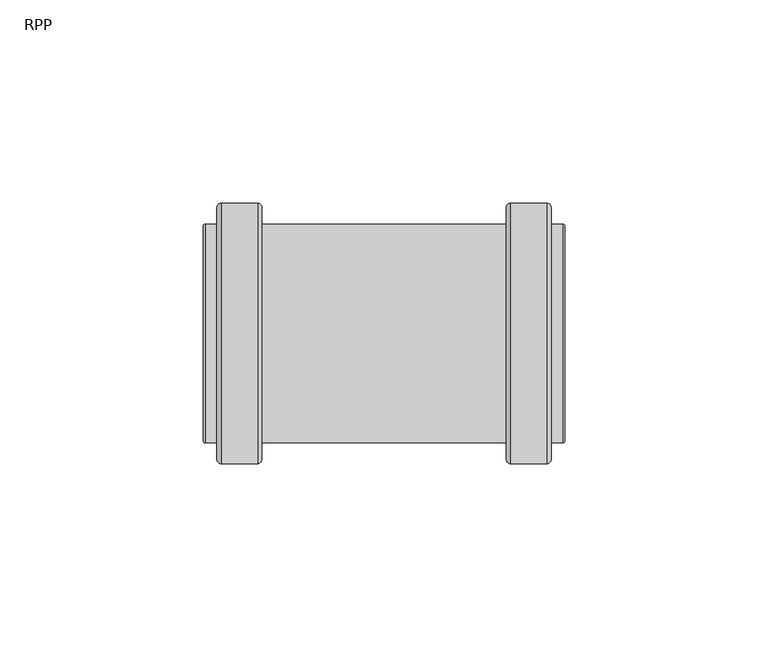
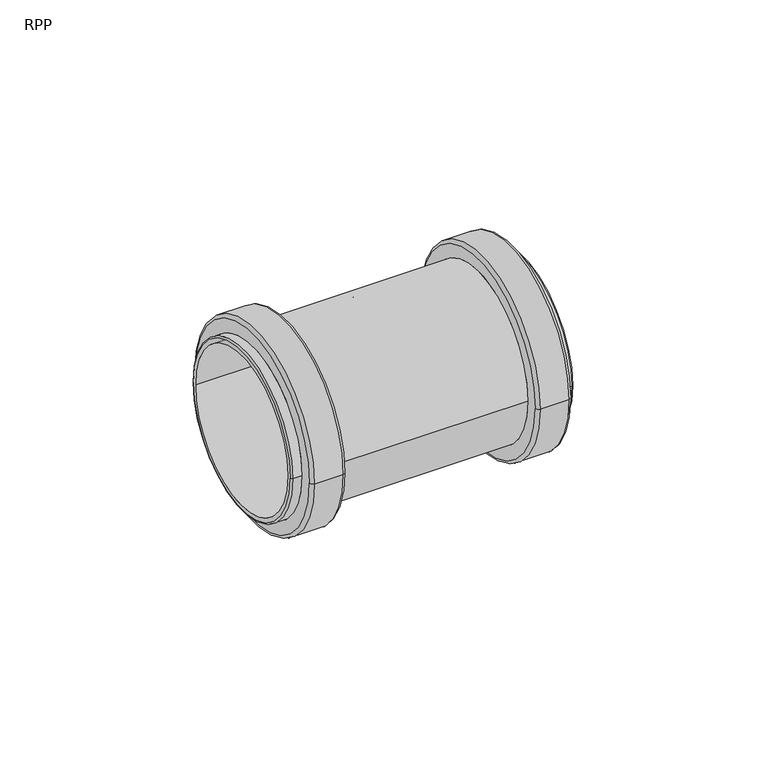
"""IFC4 building model written with IfcOpenShell, lengths in millimetres: pipe fitting geometry, RAUPIANO PLUS Double socket : RPP."""

from ifc_helpers import new_model, si_unit, point, frame, origin, place, context, project, spatial, polyline, circle_curve, ellipse_curve, trimmed, source, transform, mapped, element, save
from ifc_brep_helpers import plane_surface, cylinder_surface, revolved_surface, advanced_brep


def rpp_06d6b4b1(model_context):
    return source(origin(), model_context, "Body", "AdvancedBrep", [
        advanced_brep(
        [(-40.1, 32.05, 0.0), (-40.1, -32.05, 0.0), (-41.1, -31.05, 0.0), (-41.1, 31.05, 0.0), (-31.1, 32.05, 0.0), (-31.1, -32.05, 0.0), (-30.1, 31.05, 0.0), (-30.1, -31.05, 0.0), (30.1, 26.9, 0.0), (30.1, -26.9, 0.0), (-30.1, -26.9, 0.0), (-30.1, 26.9, 0.0), (31.1, 32.05, 0.0), (31.1, -32.05, 0.0), (30.1, -31.05, 0.0), (30.1, 31.05, 0.0), (40.1, 32.05, 0.0), (40.1, -32.05, 0.0), (41.1, 31.05, 0.0), (41.1, -31.05, 0.0), (44.0, 26.9, 0.0), (44.0, -26.9, 0.0), (41.1, -26.9, 0.0), (41.1, 26.9, 0.0), (44.5, 26.4, 0.0), (44.5, -26.4, 0.0), (1.0, 25.0, 0.0), (1.0, -25.0, 0.0), (44.5, -25.0, 0.0), (44.5, 25.0, 0.0), (-1.0, 22.69828, 0.0), (-1.0, -22.69828, 0.0), (1.0, -22.69828, 0.0), (1.0, 22.69828, 0.0), (-44.5, 25.0, 0.0), (-44.5, -25.0, 0.0), (-1.0, -25.0, 0.0), (-1.0, 25.0, 0.0), (-44.0, 26.9, 0.0), (-44.0, -26.9, 0.0), (-44.5, -26.4, 0.0), (-44.5, 26.4, 0.0), (-41.1, 26.9, 0.0), (-41.1, -26.9, 0.0)],
        [
            (0, 1, circle_curve(frame((-40.1, 0.0, 0.0), z_axis=(-1.0, 0.0, 0.0), x_axis=(0.0, -1.0, 0.0)), 32.05)),
            (1, 2, circle_curve(frame((-40.1, -31.05, 0.0), z_axis=(0.0, 0.0, -1.0), x_axis=(1.0, 0.0, 0.0)), 1.0)),
            (2, 3, circle_curve(frame((-41.1, 0.0, 0.0), z_axis=(1.0, 0.0, 0.0), x_axis=(0.0, -1.0, 0.0)), 31.05)),
            (3, 0, circle_curve(frame((-40.1, 31.05, 0.0), z_axis=(0.0, 0.0, -1.0), x_axis=(1.0, 0.0, 0.0)), 1.0)),
            (4, 5, circle_curve(frame((-31.1, 0.0, 0.0), z_axis=(-1.0, 0.0, 0.0), x_axis=(0.0, -1.0, 0.0)), 32.05)),
            (5, 1),
            (0, 4),
            (6, 7, circle_curve(frame((-30.1, 0.0, 0.0), z_axis=(-1.0, 0.0, 0.0), x_axis=(0.0, -1.0, 0.0)), 31.05)),
            (7, 5, circle_curve(frame((-31.1, -31.05, 0.0), z_axis=(0.0, 0.0, -1.0), x_axis=(1.0, 0.0, 0.0)), 1.0)),
            (4, 6, circle_curve(frame((-31.1, 31.05, 0.0), z_axis=(0.0, 0.0, -1.0), x_axis=(1.0, 0.0, 0.0)), 1.0)),
            (8, 9, circle_curve(frame((30.1, 0.0, 0.0), z_axis=(-1.0, 0.0, 0.0), x_axis=(0.0, -1.0, 0.0)), 26.9)),
            (9, 10),
            (10, 11, circle_curve(frame((-30.1, 0.0, 0.0), z_axis=(1.0, 0.0, 0.0), x_axis=(0.0, -1.0, 0.0)), 26.9)),
            (11, 8),
            (12, 13, circle_curve(frame((31.1, 0.0, 0.0), z_axis=(-1.0, 0.0, 0.0), x_axis=(0.0, -1.0, 0.0)), 32.05)),
            (13, 14, circle_curve(frame((31.1, -31.05, 0.0), z_axis=(0.0, 0.0, -1.0), x_axis=(1.0, 0.0, 0.0)), 1.0)),
            (14, 15, circle_curve(frame((30.1, 0.0, 0.0), z_axis=(1.0, 0.0, 0.0), x_axis=(0.0, -1.0, 0.0)), 31.05)),
            (15, 12, circle_curve(frame((31.1, 31.05, 0.0), z_axis=(0.0, 0.0, -1.0), x_axis=(1.0, 0.0, 0.0)), 1.0)),
            (16, 17, circle_curve(frame((40.1, 0.0, 0.0), z_axis=(-1.0, 0.0, 0.0), x_axis=(0.0, -1.0, 0.0)), 32.05)),
            (17, 13),
            (12, 16),
            (18, 19, circle_curve(frame((41.1, 0.0, 0.0), z_axis=(-1.0, 0.0, 0.0), x_axis=(0.0, -1.0, 0.0)), 31.05)),
            (19, 17, circle_curve(frame((40.1, -31.05, 0.0), z_axis=(0.0, 0.0, -1.0), x_axis=(1.0, 0.0, 0.0)), 1.0)),
            (16, 18, circle_curve(frame((40.1, 31.05, 0.0), z_axis=(0.0, 0.0, -1.0), x_axis=(1.0, 0.0, 0.0)), 1.0)),
            (20, 21, circle_curve(frame((44.0, 0.0, 0.0), z_axis=(-1.0, 0.0, 0.0), x_axis=(0.0, -1.0, 0.0)), 26.9)),
            (21, 22),
            (22, 23, circle_curve(frame((41.1, 0.0, 0.0), z_axis=(1.0, 0.0, 0.0), x_axis=(0.0, -1.0, 0.0)), 26.9)),
            (23, 20),
            (24, 25, circle_curve(frame((44.5, 0.0, 0.0), z_axis=(-1.0, 0.0, 0.0), x_axis=(0.0, -1.0, 0.0)), 26.4)),
            (25, 21, circle_curve(frame((44.0, -26.4, 0.0), z_axis=(0.0, 0.0, -1.0), x_axis=(1.0, 0.0, 0.0)), 0.5)),
            (20, 24, circle_curve(frame((44.0, 26.4, 0.0), z_axis=(0.0, 0.0, -1.0), x_axis=(1.0, 0.0, 0.0)), 0.5)),
            (26, 27, circle_curve(frame((1.0, 0.0, 0.0), z_axis=(-1.0, 0.0, 0.0), x_axis=(0.0, -1.0, 0.0)), 25.0)),
            (27, 28),
            (28, 29, circle_curve(frame((44.5, 0.0, 0.0), z_axis=(1.0, 0.0, 0.0), x_axis=(0.0, -1.0, 0.0)), 25.0)),
            (29, 26),
            (30, 31, circle_curve(frame((-1.0, 0.0, 0.0), z_axis=(-1.0, 0.0, 0.0), x_axis=(0.0, -1.0, 0.0)), 22.69828)),
            (31, 32),
            (32, 33, circle_curve(frame((1.0, 0.0, 0.0), z_axis=(1.0, 0.0, 0.0), x_axis=(0.0, -1.0, 0.0)), 22.69828)),
            (33, 30),
            (34, 35, circle_curve(frame((-44.5, 0.0, 0.0), z_axis=(-1.0, 0.0, 0.0), x_axis=(0.0, -1.0, 0.0)), 25.0)),
            (35, 36),
            (36, 37, circle_curve(frame((-1.0, 0.0, 0.0), z_axis=(1.0, 0.0, 0.0), x_axis=(0.0, -1.0, 0.0)), 25.0)),
            (37, 34),
            (38, 39, circle_curve(frame((-44.0, 0.0, 0.0), z_axis=(-1.0, 0.0, 0.0), x_axis=(0.0, -1.0, 0.0)), 26.9)),
            (39, 40, circle_curve(frame((-44.0, -26.4, 0.0), z_axis=(0.0, 0.0, -1.0), x_axis=(1.0, 0.0, 0.0)), 0.5)),
            (40, 41, circle_curve(frame((-44.5, 0.0, 0.0), z_axis=(1.0, 0.0, 0.0), x_axis=(0.0, -1.0, 0.0)), 26.4)),
            (41, 38, circle_curve(frame((-44.0, 26.4, 0.0), z_axis=(0.0, 0.0, -1.0), x_axis=(1.0, 0.0, 0.0)), 0.5)),
            (42, 43, circle_curve(frame((-41.1, 0.0, 0.0), z_axis=(-1.0, 0.0, 0.0), x_axis=(0.0, -1.0, 0.0)), 26.9)),
            (43, 39),
            (38, 42),
            (2, 3, circle_curve(frame((-41.1, 0.0, 0.0), z_axis=(-1.0, 0.0, 0.0), x_axis=(0.0, 1.0, 0.0)), 31.05)),
            (42, 43, circle_curve(frame((-41.1, 0.0, 0.0), z_axis=(1.0, 0.0, 0.0), x_axis=(0.0, 1.0, 0.0)), 26.9)),
            (1, 0, circle_curve(frame((-40.1, 0.0, 0.0), z_axis=(-1.0, 0.0, 0.0), x_axis=(0.0, 1.0, 0.0)), 32.05)),
            (5, 4, circle_curve(frame((-31.1, 0.0, 0.0), z_axis=(-1.0, 0.0, 0.0), x_axis=(0.0, 1.0, 0.0)), 32.05)),
            (7, 6, circle_curve(frame((-30.1, 0.0, 0.0), z_axis=(-1.0, 0.0, 0.0), x_axis=(0.0, 1.0, 0.0)), 31.05)),
            (10, 11, circle_curve(frame((-30.1, 0.0, 0.0), z_axis=(-1.0, 0.0, 0.0), x_axis=(0.0, 1.0, 0.0)), 26.9)),
            (9, 8, circle_curve(frame((30.1, 0.0, 0.0), z_axis=(-1.0, 0.0, 0.0), x_axis=(0.0, 1.0, 0.0)), 26.9)),
            (14, 15, circle_curve(frame((30.1, 0.0, 0.0), z_axis=(-1.0, 0.0, 0.0), x_axis=(0.0, 1.0, 0.0)), 31.05)),
            (13, 12, circle_curve(frame((31.1, 0.0, 0.0), z_axis=(-1.0, 0.0, 0.0), x_axis=(0.0, 1.0, 0.0)), 32.05)),
            (17, 16, circle_curve(frame((40.1, 0.0, 0.0), z_axis=(-1.0, 0.0, 0.0), x_axis=(0.0, 1.0, 0.0)), 32.05)),
            (19, 18, circle_curve(frame((41.1, 0.0, 0.0), z_axis=(-1.0, 0.0, 0.0), x_axis=(0.0, 1.0, 0.0)), 31.05)),
            (22, 23, circle_curve(frame((41.1, 0.0, 0.0), z_axis=(-1.0, 0.0, 0.0), x_axis=(0.0, 1.0, 0.0)), 26.9)),
            (21, 20, circle_curve(frame((44.0, 0.0, 0.0), z_axis=(-1.0, 0.0, 0.0), x_axis=(0.0, 1.0, 0.0)), 26.9)),
            (25, 24, circle_curve(frame((44.5, 0.0, 0.0), z_axis=(-1.0, 0.0, 0.0), x_axis=(0.0, 1.0, 0.0)), 26.4)),
            (28, 29, circle_curve(frame((44.5, 0.0, 0.0), z_axis=(-1.0, 0.0, 0.0), x_axis=(0.0, 1.0, 0.0)), 25.0)),
            (27, 26, circle_curve(frame((1.0, 0.0, 0.0), z_axis=(-1.0, 0.0, 0.0), x_axis=(0.0, 1.0, 0.0)), 25.0)),
            (32, 33, circle_curve(frame((1.0, 0.0, 0.0), z_axis=(-1.0, 0.0, 0.0), x_axis=(0.0, 1.0, 0.0)), 22.69828)),
            (31, 30, circle_curve(frame((-1.0, 0.0, 0.0), z_axis=(-1.0, 0.0, 0.0), x_axis=(0.0, 1.0, 0.0)), 22.69828)),
            (36, 37, circle_curve(frame((-1.0, 0.0, 0.0), z_axis=(-1.0, 0.0, 0.0), x_axis=(0.0, 1.0, 0.0)), 25.0)),
            (35, 34, circle_curve(frame((-44.5, 0.0, 0.0), z_axis=(-1.0, 0.0, 0.0), x_axis=(0.0, 1.0, 0.0)), 25.0)),
            (40, 41, circle_curve(frame((-44.5, 0.0, 0.0), z_axis=(-1.0, 0.0, 0.0), x_axis=(0.0, 1.0, 0.0)), 26.4)),
            (39, 38, circle_curve(frame((-44.0, 0.0, 0.0), z_axis=(-1.0, 0.0, 0.0), x_axis=(0.0, 1.0, 0.0)), 26.9)),
        ],
        [
            revolved_surface(trimmed(ellipse_curve(frame((-40.1, -31.05, 0.0), z_axis=(0.0, 0.0, 1.0), x_axis=(1.0, 0.0, 0.0)), 1.0, 1.0), [point((-41.1, -31.05, 0.0))], [point((-40.1, -32.05, 0.0))], True, "CARTESIAN"), (0.0, 0.0, 0.0), (1.0, 0.0, 0.0)),
            cylinder_surface(frame((0.0, 0.0, 0.0), z_axis=(1.0, 0.0, 0.0), x_axis=(0.0, -1.0, 0.0)), 32.05),
            revolved_surface(trimmed(ellipse_curve(frame((-31.1, -31.05, 0.0), z_axis=(0.0, 0.0, 1.0), x_axis=(1.0, 0.0, 0.0)), 1.0, 1.0), [point((-31.1, -32.05, 0.0))], [point((-30.1, -31.05, 0.0))], True, "CARTESIAN"), (0.0, 0.0, 0.0), (1.0, 0.0, 0.0)),
            cylinder_surface(frame((0.0, 0.0, 0.0), z_axis=(1.0, 0.0, 0.0), x_axis=(0.0, -1.0, 0.0)), 26.9),
            revolved_surface(trimmed(ellipse_curve(frame((31.1, -31.05, 0.0), z_axis=(0.0, 0.0, 1.0), x_axis=(1.0, 0.0, 0.0)), 1.0, 1.0), [point((30.1, -31.05, 0.0))], [point((31.1, -32.05, 0.0))], True, "CARTESIAN"), (0.0, 0.0, 0.0), (1.0, 0.0, 0.0)),
            revolved_surface(trimmed(ellipse_curve(frame((40.1, -31.05, 0.0), z_axis=(0.0, 0.0, 1.0), x_axis=(1.0, 0.0, 0.0)), 1.0, 1.0), [point((40.1, -32.05, 0.0))], [point((41.1, -31.05, 0.0))], True, "CARTESIAN"), (0.0, 0.0, 0.0), (1.0, 0.0, 0.0)),
            revolved_surface(trimmed(ellipse_curve(frame((44.0, -26.4, 0.0), z_axis=(0.0, 0.0, 1.0), x_axis=(1.0, 0.0, 0.0)), 0.5, 0.5), [point((44.0, -26.9, 0.0))], [point((44.5, -26.4, 0.0))], True, "CARTESIAN"), (0.0, 0.0, 0.0), (1.0, 0.0, 0.0)),
            revolved_surface(polyline([(44.5, -25.0, 0.0), (1.0, -25.0, 0.0)]), (0.0, 0.0, 0.0), (1.0, 0.0, 0.0)),
            revolved_surface(polyline([(1.0, -22.69828, 0.0), (-1.0, -22.69828, 0.0)]), (0.0, 0.0, 0.0), (1.0, 0.0, 0.0)),
            revolved_surface(polyline([(-1.0, -25.0, 0.0), (-44.5, -25.0, 0.0)]), (0.0, 0.0, 0.0), (1.0, 0.0, 0.0)),
            revolved_surface(trimmed(ellipse_curve(frame((-44.0, -26.4, 0.0), z_axis=(0.0, 0.0, 1.0), x_axis=(1.0, 0.0, 0.0)), 0.5, 0.5), [point((-44.5, -26.4, 0.0))], [point((-44.0, -26.9, 0.0))], True, "CARTESIAN"), (0.0, 0.0, 0.0), (1.0, 0.0, 0.0)),
            plane_surface(frame((-41.1, 0.0, 0.0), z_axis=(-1.0, 0.0, 0.0), x_axis=(0.0, 1.0, 0.0))),
            revolved_surface(trimmed(ellipse_curve(frame((-40.1, 31.05, 0.0), z_axis=(0.0, 0.0, -1.0), x_axis=(1.0, 0.0, 0.0)), 1.0, 1.0), [point((-41.1, 31.05, 0.0))], [point((-40.1, 32.05, 0.0))], True, "CARTESIAN"), (0.0, 0.0, 0.0), (1.0, 0.0, 0.0)),
            cylinder_surface(frame((0.0, 0.0, 0.0), z_axis=(1.0, 0.0, 0.0), x_axis=(0.0, 1.0, 0.0)), 32.05),
            revolved_surface(trimmed(ellipse_curve(frame((-31.1, 31.05, 0.0), z_axis=(0.0, 0.0, -1.0), x_axis=(1.0, 0.0, 0.0)), 1.0, 1.0), [point((-31.1, 32.05, 0.0))], [point((-30.1, 31.05, 0.0))], True, "CARTESIAN"), (0.0, 0.0, 0.0), (1.0, 0.0, 0.0)),
            plane_surface(frame((-30.1, 0.0, 0.0), z_axis=(1.0, 0.0, 0.0), x_axis=(0.0, 1.0, 0.0))),
            cylinder_surface(frame((0.0, 0.0, 0.0), z_axis=(1.0, 0.0, 0.0), x_axis=(0.0, 1.0, 0.0)), 26.9),
            plane_surface(frame((30.1, 0.0, 0.0), z_axis=(-1.0, 0.0, 0.0), x_axis=(0.0, 1.0, 0.0))),
            revolved_surface(trimmed(ellipse_curve(frame((31.1, 31.05, 0.0), z_axis=(0.0, 0.0, -1.0), x_axis=(1.0, 0.0, 0.0)), 1.0, 1.0), [point((30.1, 31.05, 0.0))], [point((31.1, 32.05, 0.0))], True, "CARTESIAN"), (0.0, 0.0, 0.0), (1.0, 0.0, 0.0)),
            revolved_surface(trimmed(ellipse_curve(frame((40.1, 31.05, 0.0), z_axis=(0.0, 0.0, -1.0), x_axis=(1.0, 0.0, 0.0)), 1.0, 1.0), [point((40.1, 32.05, 0.0))], [point((41.1, 31.05, 0.0))], True, "CARTESIAN"), (0.0, 0.0, 0.0), (1.0, 0.0, 0.0)),
            plane_surface(frame((41.1, 0.0, 0.0), z_axis=(1.0, 0.0, 0.0), x_axis=(0.0, 1.0, 0.0))),
            revolved_surface(trimmed(ellipse_curve(frame((44.0, 26.4, 0.0), z_axis=(0.0, 0.0, -1.0), x_axis=(1.0, 0.0, 0.0)), 0.5, 0.5), [point((44.0, 26.9, 0.0))], [point((44.5, 26.4, 0.0))], True, "CARTESIAN"), (0.0, 0.0, 0.0), (1.0, 0.0, 0.0)),
            plane_surface(frame((44.5, 0.0, 0.0), z_axis=(1.0, 0.0, 0.0), x_axis=(0.0, 1.0, 0.0))),
            revolved_surface(polyline([(44.5, 25.0, 0.0), (1.0, 25.0, 0.0)]), (0.0, 0.0, 0.0), (1.0, 0.0, 0.0)),
            plane_surface(frame((1.0, 0.0, 0.0), z_axis=(1.0, 0.0, 0.0), x_axis=(0.0, 1.0, 0.0))),
            revolved_surface(polyline([(1.0, 22.69828, 0.0), (-1.0, 22.69828, 0.0)]), (0.0, 0.0, 0.0), (1.0, 0.0, 0.0)),
            plane_surface(frame((-1.0, 0.0, 0.0), z_axis=(-1.0, 0.0, 0.0), x_axis=(0.0, 1.0, 0.0))),
            revolved_surface(polyline([(-1.0, 25.0, 0.0), (-44.5, 25.0, 0.0)]), (0.0, 0.0, 0.0), (1.0, 0.0, 0.0)),
            plane_surface(frame((-44.5, 0.0, 0.0), z_axis=(-1.0, 0.0, 0.0), x_axis=(0.0, 1.0, 0.0))),
            revolved_surface(trimmed(ellipse_curve(frame((-44.0, 26.4, 0.0), z_axis=(0.0, 0.0, -1.0), x_axis=(1.0, 0.0, 0.0)), 0.5, 0.5), [point((-44.5, 26.4, 0.0))], [point((-44.0, 26.9, 0.0))], True, "CARTESIAN"), (0.0, 0.0, 0.0), (1.0, 0.0, 0.0)),
        ],
        [
            (0, [[1, 2, 3, 4]]),
            (1, [[5, 6, -1, 7]]),
            (2, [[8, 9, -5, 10]]),
            (3, [[11, 12, 13, 14]]),
            (4, [[15, 16, 17, 18]]),
            (1, [[19, 20, -15, 21]]),
            (5, [[22, 23, -19, 24]]),
            (3, [[25, 26, 27, 28]]),
            (6, [[29, 30, -25, 31]]),
            (7, [[32, 33, 34, 35]]),
            (8, [[36, 37, 38, 39]]),
            (9, [[40, 41, 42, 43]]),
            (10, [[44, 45, 46, 47]]),
            (3, [[48, 49, -44, 50]]),
            (11, [[51, -3], [52, -48]]),
            (12, [[53, -4, -51, -2]]),
            (13, [[54, -7, -53, -6]]),
            (14, [[55, -10, -54, -9]]),
            (15, [[-55, -8], [56, -13]]),
            (16, [[57, -14, -56, -12]]),
            (17, [[58, -17], [-57, -11]]),
            (18, [[59, -18, -58, -16]]),
            (13, [[60, -21, -59, -20]]),
            (19, [[61, -24, -60, -23]]),
            (20, [[-61, -22], [62, -27]]),
            (16, [[63, -28, -62, -26]]),
            (21, [[64, -31, -63, -30]]),
            (22, [[-64, -29], [65, -34]]),
            (23, [[66, -35, -65, -33]]),
            (24, [[-66, -32], [67, -38]]),
            (25, [[68, -39, -67, -37]]),
            (26, [[69, -42], [-68, -36]]),
            (27, [[70, -43, -69, -41]]),
            (28, [[71, -46], [-70, -40]]),
            (29, [[72, -47, -71, -45]]),
            (16, [[-52, -50, -72, -49]]),
        ],
    ),
    ])


if __name__ == "__main__":
    model = new_model("IFC4")
    model_context = context("Model", 3, world=origin())
    ifc_project = project(units=[si_unit("LENGTHUNIT", "METRE", prefix="MILLI")], contexts=[model_context])
    site = spatial("IfcSite", under=ifc_project)
    building = spatial("IfcBuilding", under=site)
    placement = place(None, origin())
    rpp_shape = rpp_06d6b4b1(model_context)
    element("IfcPipeFitting", 1, ObjectType="RAUPIANO PLUS Double socket : RPP", at=placement, inside=building, context=model_context, shape_type="MappedRepresentation", body=[
        mapped(rpp_shape, transform((0.0, 0.0, 0.0), x_axis=(1.0, 0.0, 0.0), y_axis=(0.0, 1.0, 0.0), z_axis=(0.0, 0.0, 1.0))),
    ])
    save(model, "model.ifc")
